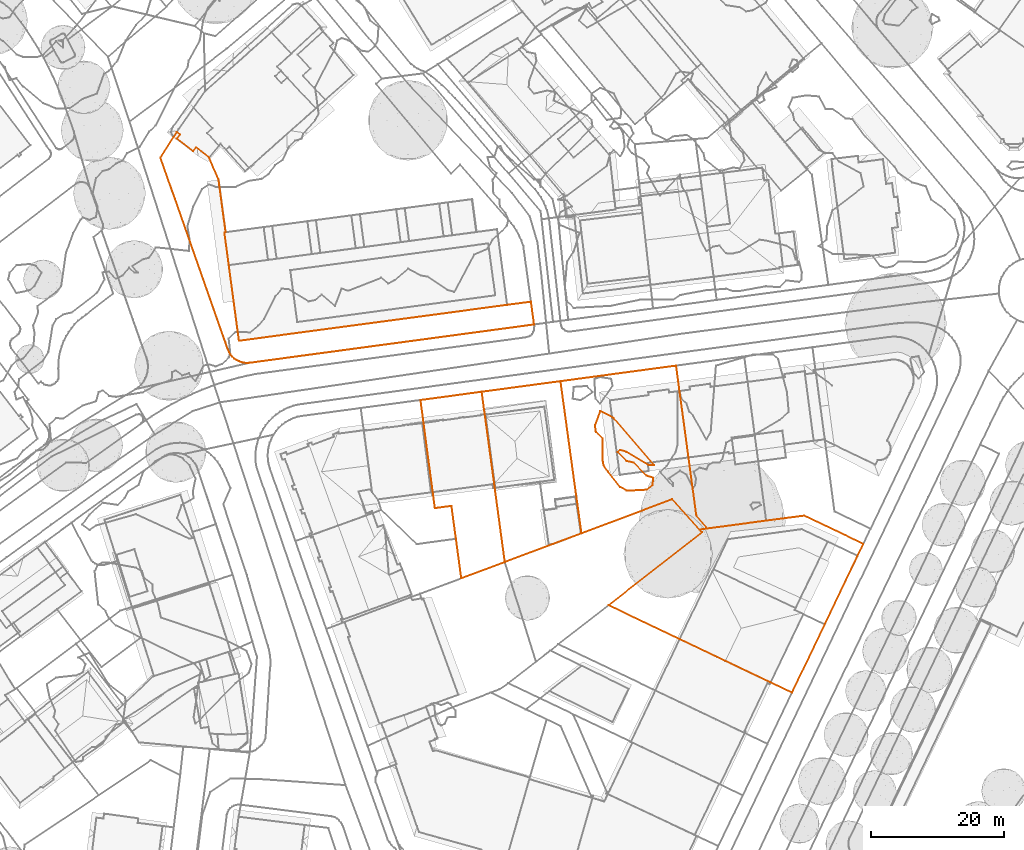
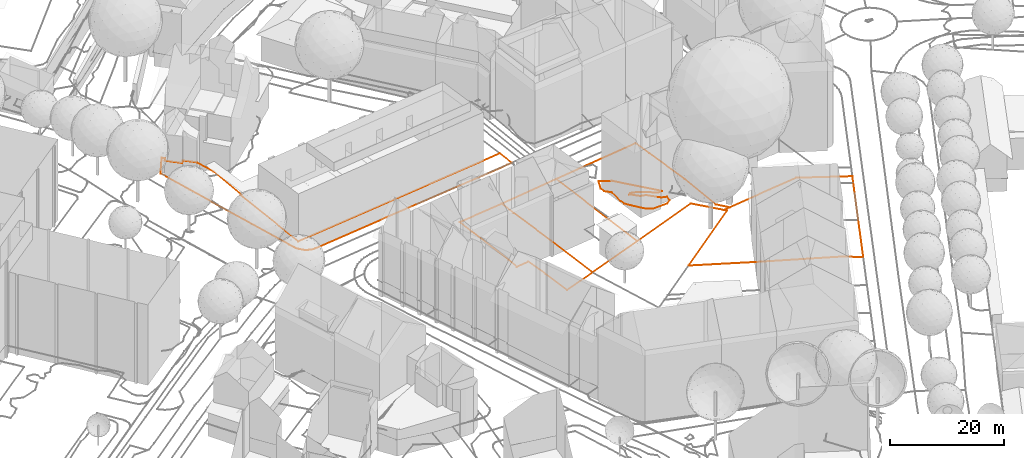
# Not in any storey, part 177 of 477: 5 geographic elements, 1 civil element.
"""IFC4 model written with IfcOpenShell, lengths in metres."""

import ifcopenshell
import ifcopenshell.guid

model = None  # the IFC model being written
_history = None  # IfcOwnerHistory: only IFC2X3 demands one
_inside = {}  # id of a spatial element -> (the spatial element, [elements in it])
_under = {}  # id of a project, library or spatial element -> (it, [spatial elements below it])
_declared = {}  # id of a project -> (the project, [libraries it declares])
_typed = {}  # id of a type object -> (the type object, [elements of that type])
_made_of = {}  # id of a material, layer set ... -> (it, [elements and type objects made of it])


def new_model(schema):
    """Start an empty IFC model of exactly this schema.

    Asked for "IFC4X3", IfcOpenShell would pick the latest addendum, in which some entities
    have other attributes; the version numbers below select the first issue.
    IFC2X3 requires an IfcOwnerHistory on every rooted entity: one is made here for all.
    """
    global model, _history
    if schema == "IFC4X3":
        model = ifcopenshell.file(schema_version=(4, 3, 0, 0))
    else:
        model = ifcopenshell.file(schema=schema)
    _inside.clear()
    _under.clear()
    _declared.clear()
    _typed.clear()
    _made_of.clear()
    _history = None
    if model.schema == "IFC2X3":
        org = make("IfcOrganization", Name="unknown")
        user = make(
            "IfcPersonAndOrganization",
            ThePerson=make("IfcPerson", FamilyName="unknown"),
            TheOrganization=org,
        )
        app = make(
            "IfcApplication",
            ApplicationDeveloper=org,
            Version="unknown",
            ApplicationFullName="unknown",
            ApplicationIdentifier="unknown",
        )
        _history = make(
            "IfcOwnerHistory",
            OwningUser=user,
            OwningApplication=app,
            ChangeAction="ADDED",
            CreationDate=0,
        )
    return model


def make(cls, **values):
    """One entity of the class cls with the attributes given. An attribute that is None is left unset."""
    return model.create_entity(
        cls, **{name: value for name, value in values.items() if value is not None}
    )


def entity(cls, *values):
    """Any entity or typed value of the class cls, its attributes in the order of the schema. None: left unset."""
    e = model.create_entity(cls)
    for i, value in enumerate(values):
        if value is not None:
            e[i] = value
    return e


def rooted(cls, **values):
    """An entity with a GlobalId (a new one), such as an element, a storey or a relation."""
    return make(cls, GlobalId=ifcopenshell.guid.new(), OwnerHistory=_history, **values)


def si_unit(unit_type, name, prefix=None):
    """IfcSIUnit, for example si_unit("LENGTHUNIT", "METRE", prefix="MILLI")."""
    return make("IfcSIUnit", UnitType=unit_type, Prefix=prefix, Name=name)


def assignment(units):
    """IfcUnitAssignment: the units of a project."""
    return None if units is None else make("IfcUnitAssignment", Units=units)


def point(xyz):
    """IfcCartesianPoint."""
    return None if xyz is None else make("IfcCartesianPoint", Coordinates=xyz)


def direction(xyz):
    """IfcDirection."""
    return None if xyz is None else make("IfcDirection", DirectionRatios=xyz)


def frame(location, z_axis=None, x_axis=None):
    """IfcAxis2Placement3D, a coordinate frame: its origin and axes. An axis left out is left unset."""
    return make(
        "IfcAxis2Placement3D",
        Location=point(location),
        Axis=direction(z_axis),
        RefDirection=direction(x_axis),
    )


def origin_with_axes():
    """The frame at (0, 0, 0) with the z axis (0, 0, 1) and the x axis (1, 0, 0) written out."""
    return frame((0.0, 0.0, 0.0), z_axis=(0.0, 0.0, 1.0), x_axis=(1.0, 0.0, 0.0))


def place(relative_to, where):
    """IfcLocalPlacement: puts the frame where relative to a parent placement (None: the world)."""
    return make(
        "IfcLocalPlacement", PlacementRelTo=relative_to, RelativePlacement=where
    )


def context(
    kind, dimensions, precision=None, world=None, true_north=None, identifier=None
):
    """IfcGeometricRepresentationContext, for example the 3D "Model" context."""
    return make(
        "IfcGeometricRepresentationContext",
        ContextIdentifier=identifier,
        ContextType=kind,
        CoordinateSpaceDimension=dimensions,
        Precision=precision,
        WorldCoordinateSystem=world,
        TrueNorth=true_north,
    )


def subcontext(parent, identifier, kind, view, scale=None):
    """IfcGeometricRepresentationSubContext, for example "Body" below "Model"."""
    return make(
        "IfcGeometricRepresentationSubContext",
        ContextIdentifier=identifier,
        ContextType=kind,
        ParentContext=parent,
        TargetScale=scale,
        TargetView=view,
    )


def project(units=None, contexts=None):
    """IfcProject with its units and contexts."""
    return rooted(
        "IfcProject",
        Name="project",
        RepresentationContexts=contexts,
        UnitsInContext=assignment(units),
    )


def spatial(cls, under=None, at=None, **own):
    """A site, building, storey or space (cls), placed at a placement, below another one or the project."""
    s = rooted(cls, ObjectPlacement=at, **own)
    if under is not None:
        _under.setdefault(under.id(), (under, []))[1].append(s)
    return s


def shape(context_of_items, identifier, shape_type, items):
    """IfcShapeRepresentation: the items that make up one representation, for example the "Body"."""
    return make(
        "IfcShapeRepresentation",
        ContextOfItems=context_of_items,
        RepresentationIdentifier=identifier,
        RepresentationType=shape_type,
        Items=items,
    )


def made_of(thing, what):
    """Note that an element or type object is made of a material, layer set ...; save() writes the relation."""
    if what is not None:
        _made_of.setdefault(what.id(), (what, []))[1].append(thing)
    return thing


def element(
    cls,
    number,
    at=None,
    inside=None,
    cuts=None,
    type_object=None,
    material=None,
    context=None,
    identifier="Body",
    shape_type=None,
    held_by="IfcProductDefinitionShape",
    body=None,
    shapes=None,
    **own,
):
    """One element of the class cls, such as IfcWall. Its Tag is "e" and its number.

    at: its placement. inside: the storey or other place that contains it. cuts: it is an
    opening in that element (IfcRelVoidsElement). A single representation is given by context,
    identifier, shape_type and body (its items); several are given by shapes. held_by: the class
    of the entity that holds the representations. save() writes the other relations.
    """
    e = rooted(cls, Tag="e%d" % number, ObjectPlacement=at, **own)
    if body is not None:
        shapes = [shape(context, identifier, shape_type, body)]
    if shapes is not None:
        e.Representation = make(held_by, Representations=shapes)
    if inside is not None:
        _inside.setdefault(inside.id(), (inside, []))[1].append(e)
    if cuts is not None:
        rooted(
            "IfcRelVoidsElement", RelatingBuildingElement=cuts, RelatedOpeningElement=e
        )
    if type_object is not None:
        _typed.setdefault(type_object.id(), (type_object, []))[1].append(e)
    return made_of(e, material)


def aggregate(whole, parts):
    """IfcRelAggregates: a whole, such as a stair, and the parts it consists of."""
    return rooted("IfcRelAggregates", RelatingObject=whole, RelatedObjects=parts)


def save(model, path):
    """Write the relations noted so far, then the file.

    IfcRelAggregates (storeys below a building ...), IfcRelContainedInSpatialStructure (elements
    in a storey), IfcRelDefinesByType, IfcRelAssociatesMaterial and IfcRelDeclares: one each for
    every whole, place, type object, material and project.
    """
    for whole, parts in _under.values():
        aggregate(whole, parts)
    for where, things in _inside.values():
        rooted(
            "IfcRelContainedInSpatialStructure",
            RelatedElements=things,
            RelatingStructure=where,
        )
    for kind, things in _typed.values():
        rooted("IfcRelDefinesByType", RelatedObjects=things, RelatingType=kind)
    for what, things in _made_of.values():
        rooted("IfcRelAssociatesMaterial", RelatedObjects=things, RelatingMaterial=what)
    for by, libraries in _declared.values():
        rooted("IfcRelDeclares", RelatingContext=by, RelatedDefinitions=libraries)
    model.write(path)


model = new_model("IFC4")

# Units and contexts
model_context = context("Model", 3, precision=1e-05, world=origin_with_axes())
body_context = subcontext(model_context, "Body", "Model", "MODEL_VIEW")
ifc_project = project(units=[si_unit("AREAUNIT", "SQUARE_METRE"), si_unit("LENGTHUNIT", "METRE")], contexts=[model_context])

# Sites
site_1_placement = place(None, origin_with_axes())
site_1 = spatial("IfcSite", under=ifc_project, at=site_1_placement, Name="Topoexport Site")
site_2_placement = place(site_1_placement, origin_with_axes())
site_2 = spatial("IfcSite", under=site_1, at=site_2_placement, Name="TPX_ROADS_OUTLINES")

# Civil element
civil_element_placement = place(site_2_placement, frame((453.3807320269, 209.5427160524, 504.7063221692), z_axis=(0.0, 0.0, 1.0), x_axis=(1.0, 0.0, 0.0)))
element("IfcCivilElement", 1, at=civil_element_placement, inside=site_2, Name="Roads Outline 73", ObjectType="ROAD", context=body_context, shape_type="GeometricCurveSet", body=[
    entity("IfcGeometricCurveSet", [entity("IfcIndexedPolyCurve", entity("IfcCartesianPointList3D", [[0.0, 0.0, 0.0], [1.9939999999, 3.1070000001, 0.1256561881], [2.4639999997, 3.8400000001, 0.1304589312], [2.9509999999, 3.4410000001, 0.095657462], [2.4669999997, 2.855, 0.0961676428], [4.9169999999, 0.9280000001, -0.0836188], [5.3869999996, 1.5260000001, -0.0827119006], [7.344, -0.013, -0.2283625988], [8.7609999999, -3.3489999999, -0.6400598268], [9.8289999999, -11.2689999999, -1.2070490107], [9.6499999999, -11.2930000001, -1.2032401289], [11.8389999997, -27.6299999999, -1.8888219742], [52.2760000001, -22.2169999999, -2.1267073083], [55.855, -21.7379999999, -2.0981150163], [56.3249999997, -25.176, -2.2050651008], [55.4699999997, -25.291, -2.2174662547], [30.0979999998, -28.7069999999, -2.0059803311], [13.4199999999, -30.9509999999, -1.9028906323], [13.0129999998, -30.9779999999, -1.8968056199], [12.6059999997, -30.949, -1.8824767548], [12.2069999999, -30.865, -1.8621369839], [11.8219999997, -30.7290000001, -1.8418408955], [11.46, -30.541, -1.8173063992], [11.1259999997, -30.3059999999, -1.7912716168], [10.827, -30.0279999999, -1.7642444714], [10.568, -29.713, -1.7573956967], [10.3539999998, -29.365, -1.7543245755], [10.1899999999, -28.9909999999, -1.7367296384], [9.807, -27.8999999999, -1.6762448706], [2.2199999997, -6.301, -0.4264981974], [0.0, 0.0, 0.0]]))]),
])

# Site
site_3_placement = place(site_1_placement, origin_with_axes())
site_3 = spatial("IfcSite", under=site_1, at=site_3_placement, Name="TPX_CADASTRES")

# Geographic elements
geographic_element_1_placement = place(site_3_placement, frame((513.6847320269, 175.8227160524, 502.8434100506), z_axis=(0.0, 0.0, 1.0), x_axis=(1.0, 0.0, 0.0)))
element("IfcGeographicElement", 2, at=geographic_element_1_placement, inside=site_3, Name="Cadastre 128", PredefinedType="NOTDEFINED", context=body_context, shape_type="GeometricCurveSet", body=[
    entity("IfcGeometricCurveSet", [entity("IfcIndexedPolyCurve", entity("IfcCartesianPointList3D", [[0.0, 0.0, 0.0], [17.4279999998, 2.3400000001, 0.114957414], [17.9409999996, -1.466, 0.12839753], [19.2999999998, -11.524, 0.2267091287], [20.4789999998, -20.2649999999, -0.2987271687], [22.1689999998, -22.2, -0.3541325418], [20.9589999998, -22.3599999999, -0.3984876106], [16.8489999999, -17.79, -0.3415028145], [3.1609999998, -22.9210000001, -0.470106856], [0.0, 0.0, 0.0]]))]),
])
geographic_element_2_placement = place(site_3_placement, frame((492.5877320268, 172.9817160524, 502.7364813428), z_axis=(0.0, 0.0, 1.0), x_axis=(1.0, 0.0, 0.0)))
element("IfcGeographicElement", 3, at=geographic_element_2_placement, inside=site_3, Name="Cadastre 134", PredefinedType="NOTDEFINED", context=body_context, shape_type="GeometricCurveSet", body=[
    entity("IfcGeometricCurveSet", [entity("IfcIndexedPolyCurve", entity("IfcCartesianPointList3D", [[0.0, 0.0, 0.0], [9.219, 1.2409999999, -0.0531696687], [9.6799999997, -2.149, -0.0918652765], [11.1829999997, -13.193, -0.1219389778], [12.7089999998, -24.4099999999, -0.3653266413], [6.1499999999, -26.8699999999, -0.3424673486], [5.3399999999, -20.9199999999, -0.2523604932], [4.6699999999, -15.9649999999, -0.3331788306], [2.165, -16.29, -0.4138731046], [1.8369999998, -13.8219999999, -0.1995920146], [0.4610000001, -3.469, -0.0172720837], [0.0, 0.0, 0.0]]))]),
])
geographic_element_3_placement = place(site_3_placement, frame((501.8067320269, 174.2227160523, 502.6833116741), z_axis=(0.0, 0.0, 1.0), x_axis=(1.0, 0.0, 0.0)))
element("IfcGeographicElement", 4, at=geographic_element_3_placement, inside=site_3, Name="Cadastre 165", PredefinedType="NOTDEFINED", context=body_context, shape_type="GeometricCurveSet", body=[
    entity("IfcGeometricCurveSet", [entity("IfcIndexedPolyCurve", entity("IfcCartesianPointList3D", [[0.0, 0.0, 0.0], [11.878, 1.6000000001, 0.1600983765], [15.0389999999, -21.321, -0.3100084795], [3.4899999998, -25.6509999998, -0.3121569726], [1.9639999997, -14.4339999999, -0.0687693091], [0.4609999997, -3.3899999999, -0.0386956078], [0.0, 0.0, 0.0]]))]),
])
geographic_element_4_placement = place(site_3_placement, frame((520.9057320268, 142.0517160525, 502.3285369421), z_axis=(0.0, 0.0, 1.0), x_axis=(1.0, 0.0, 0.0)))
element("IfcGeographicElement", 5, at=geographic_element_4_placement, inside=site_3, Name="Cadastre 188", PredefinedType="NOTDEFINED", context=body_context, shape_type="GeometricCurveSet", body=[
    entity("IfcGeometricCurveSet", [entity("IfcIndexedPolyCurve", entity("IfcCartesianPointList3D", [[0.0, 0.0, 0.0], [14.1179999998, 10.9909999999, 0.1055977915], [13.7379999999, 11.4110000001, 0.1163854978], [14.9479999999, 11.571, 0.1607405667], [23.787, 12.7509999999, 0.1886298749], [29.486, 13.5009999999, 0.208667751], [38.415, 9.2509999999, -0.0037103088], [27.6570000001, -13.1899999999, 0.1124345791], [24.3449999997, -11.6100000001, 0.4427020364], [10.7310000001, -5.118, 0.1100251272], [0.0, 0.0, 0.0]]))]),
])

# Site
site_4_placement = place(site_1_placement, origin_with_axes())
site_4 = spatial("IfcSite", under=site_1, at=site_4_placement, Name="TPX_CONTOUR_LINES")

# Geographic element
geographic_element_5_placement = place(site_4_placement, frame((518.8822858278, 169.1707160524, 503.0), z_axis=(0.0, 0.0, 1.0), x_axis=(1.0, 0.0, 0.0)))
element("IfcGeographicElement", 6, at=geographic_element_5_placement, inside=site_4, Name="Contour Line 503.0 m", PredefinedType="NOTDEFINED", context=body_context, shape_type="GeometricCurveSet", body=[
    entity("IfcGeometricCurveSet", [entity("IfcIndexedPolyCurve", entity("IfcCartesianPointList3D", [[8.6675119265, -9.0, 0.0], [7.7954461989, -9.7099856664, 0.0], [4.7954461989, -9.8662232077, 0.0], [3.7954461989, -9.2770491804, 0.0], [1.9648879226, -7.0, 0.0], [1.2901351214, -6.0, 0.0], [1.1201425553, -5.0, 0.0], [1.1697478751, -2.0, 0.0], [0.1352711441, -1.0, 0.0], [0.0, 0.0, 0.0], [0.7954461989, 2.1503416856, 0.0], [2.7954461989, 1.1251396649, 0.0], [8.9345120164, -6.0, 0.0], [8.0911451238, -6.0, 0.0], [4.7954461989, -4.0279114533, 0.0], [3.7954461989, -3.7112608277, 0.0], [3.4331273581, -4.0, 0.0], [4.7954461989, -5.3828658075, 0.0], [5.7954461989, -5.6247706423, 0.0], [7.7954461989, -7.6123381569, 0.0], [8.7954461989, -7.9185567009, 0.0], [8.6675119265, -9.0, 0.0]]))]),
])

save(model, "model.ifc")
